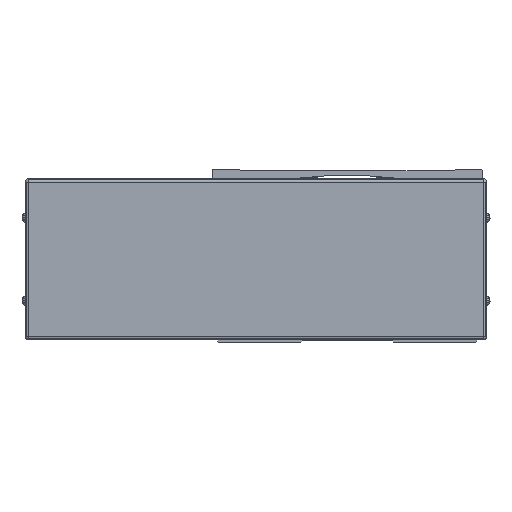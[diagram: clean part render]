
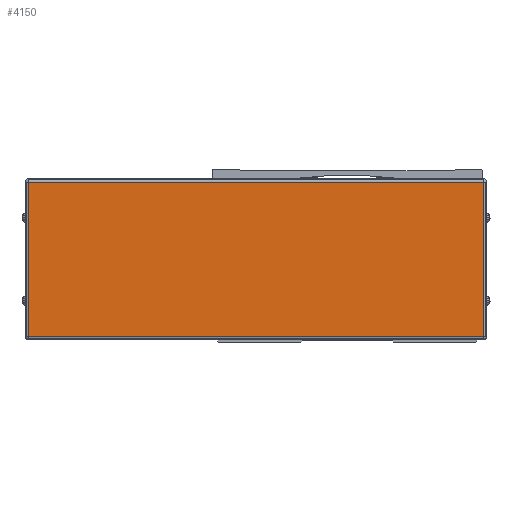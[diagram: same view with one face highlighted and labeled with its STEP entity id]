
A CAD part, front view. The second image highlights one B-rep face of the part: STEP entity #4150.
In plain terms, the highlighted planar face has unit normal (0, -1, 0).
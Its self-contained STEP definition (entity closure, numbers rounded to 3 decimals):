
#4150=ADVANCED_FACE('',(#9893),#9894,.F.);
#9893=FACE_OUTER_BOUND('',#18317,.T.);
#9894=PLANE('',#18318);
#18317=EDGE_LOOP('',(#31543,#31544,#31545,#31546));
#18318=AXIS2_PLACEMENT_3D('',#31547,#31548,#31549);
#31543=ORIENTED_EDGE('',*,*,#51062,.T.);
#31544=ORIENTED_EDGE('',*,*,#51063,.T.);
#31545=ORIENTED_EDGE('',*,*,#51064,.T.);
#31546=ORIENTED_EDGE('',*,*,#51065,.T.);
#31547=CARTESIAN_POINT('',(-655.,227.222,-2.));
#31548=DIRECTION('',(0.,1.0,0.));
#31549=DIRECTION('',(-1.0,0.,0.));
#51062=EDGE_CURVE('',#57496,#62500,#62501,.T.);
#51063=EDGE_CURVE('',#62500,#60754,#62502,.T.);
#51064=EDGE_CURVE('',#60754,#61369,#62503,.T.);
#51065=EDGE_CURVE('',#61369,#57496,#62504,.T.);
#57496=VERTEX_POINT('',#71102);
#60754=VERTEX_POINT('',#75875);
#61369=VERTEX_POINT('',#76710);
#62500=VERTEX_POINT('',#78290);
#62501=LINE('',#78291,#78292);
#62502=LINE('',#78293,#78294);
#62503=LINE('',#78295,#78296);
#62504=LINE('',#78297,#78298);
#71102=CARTESIAN_POINT('',(-517.9,227.222,44.5));
#75875=CARTESIAN_POINT('',(-792.1,227.222,-48.5));
#76710=CARTESIAN_POINT('',(-517.9,227.222,-48.5));
#78290=CARTESIAN_POINT('',(-792.1,227.222,44.5));
#78291=CARTESIAN_POINT('',(-655.,227.222,44.5));
#78292=VECTOR('',#92307,10.0);
#78293=CARTESIAN_POINT('',(-792.1,227.222,-2.));
#78294=VECTOR('',#92308,10.0);
#78295=CARTESIAN_POINT('',(-655.,227.222,-48.5));
#78296=VECTOR('',#92309,10.0);
#78297=CARTESIAN_POINT('',(-517.9,227.222,-2.));
#78298=VECTOR('',#92310,10.0);
#92307=DIRECTION('',(-1.0,0.,0.));
#92308=DIRECTION('',(0.,0.,-1.0));
#92309=DIRECTION('',(1.0,0.,0.));
#92310=DIRECTION('',(0.,0.,1.0));
